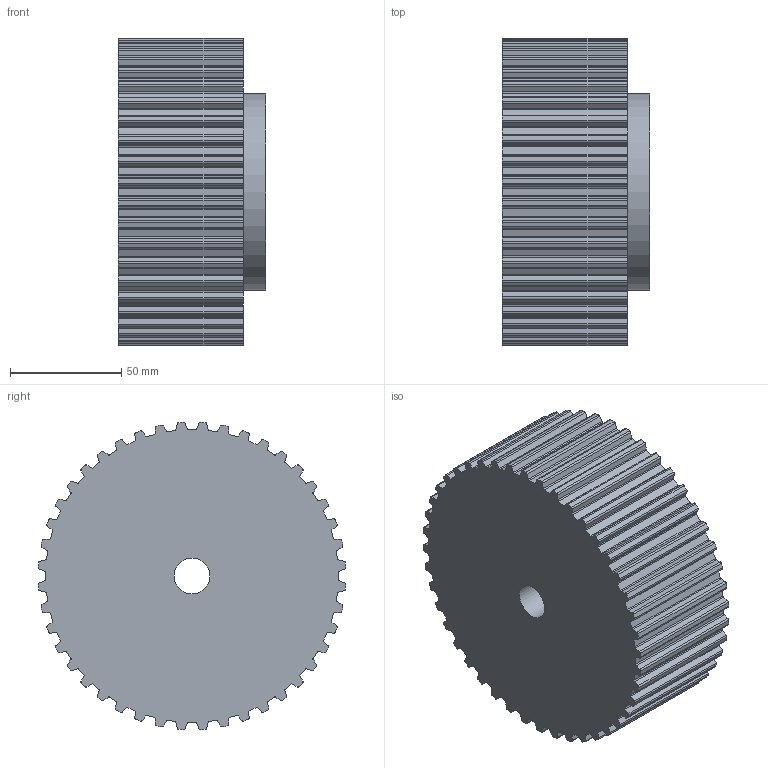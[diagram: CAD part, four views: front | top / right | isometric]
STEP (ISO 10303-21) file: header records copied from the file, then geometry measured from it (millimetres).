
FILE_DESCRIPTION( ( 'STEP AP203' ), '1' );
FILE_NAME( 'C:/Users/Stangenbergd/Documents/CAD_Step/1/16454400.stp', '2020-09-13T08:49:59', ( 'License CC BY-ND 4.0' ), ( 'CADENAS' ), ' ', 'PARTsolutions', ' ' );
FILE_SCHEMA( ( 'CONFIG_CONTROL_DESIGN' ) );
Length unit declared in the file: millimetre
Products named in the file (1): _16454400
Bounding box: 66 x 137.98 x 137.98 mm (x, y, z)
Volume: 842689.7 mm3; surface area: 68508.9 mm2
Topology: 1 solids, 1 shells, 357 faces, 1062 edges, 708 vertices
Faces by surface type: cylinder 222, plane 135
Full cylindrical faces by diameter (mm): 16 x1, 88 x1
Entity records: 12198 total; most frequent: DIRECTION 2220, CARTESIAN_POINT 2126, ORIENTED_EDGE 2120, EDGE_CURVE 1060, AXIS2_PLACEMENT_3D 802, VERTEX_POINT 708, LINE 616, VECTOR 616
